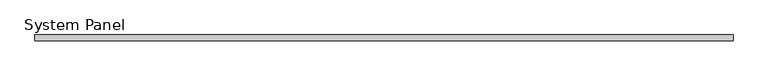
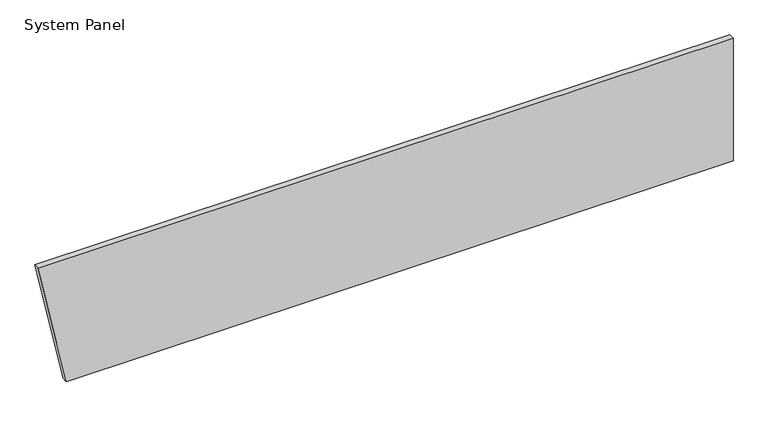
"""IFC4 building model written with IfcOpenShell, lengths in millimetres: plate geometry, System Panel : Inspire 50mm Horizontal - Plain RHEA-PIR."""

from ifc_helpers import new_model, si_unit, frame, origin, place, context, project, spatial, polyline, outline, extrude, source, transform, mapped, element, save


def system_panel_94d6362e(model_context):
    return source(origin(), model_context, "Body", "SweptSolid", [
        extrude(outline(polyline([(0.0, -2709.5661783), (0.0, 2948.698535), (1100.0, 2948.698535), (1100.0, -2948.698535), (0.0, -2709.5661783)])), frame((0.0, -50.0, 0.0), z_axis=(0.0, 1.0, 0.0), x_axis=(0.0, 0.0, 1.0)), (0.0, 0.0, 1.0), 50.0),
    ])


if __name__ == "__main__":
    model = new_model("IFC4")
    model_context = context("Model", 3, world=origin())
    ifc_project = project(units=[si_unit("LENGTHUNIT", "METRE", prefix="MILLI")], contexts=[model_context])
    site = spatial("IfcSite", under=ifc_project)
    building = spatial("IfcBuilding", under=site)
    placement = place(None, origin())
    system_panel_shape = system_panel_94d6362e(model_context)
    element("IfcPlate", 1, ObjectType="System Panel : Inspire 50mm Horizontal - Plain RHEA-PIR", at=placement, inside=building, context=model_context, shape_type="MappedRepresentation", body=[
        mapped(system_panel_shape, transform((0.0, 0.0, 0.0), x_axis=(1.0, 0.0, 0.0), y_axis=(0.0, 1.0, 0.0), z_axis=(0.0, 0.0, 1.0))),
    ])
    save(model, "model.ifc")
